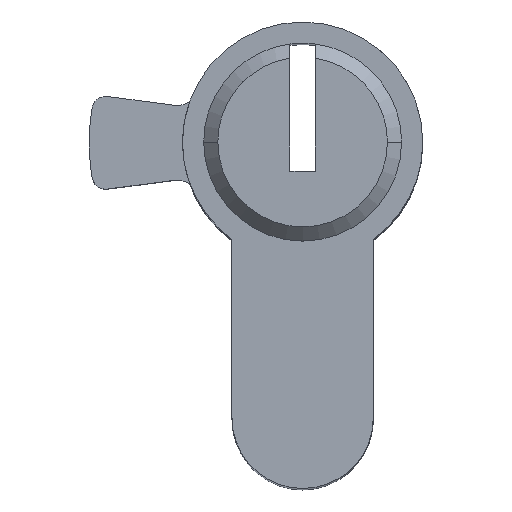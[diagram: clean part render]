
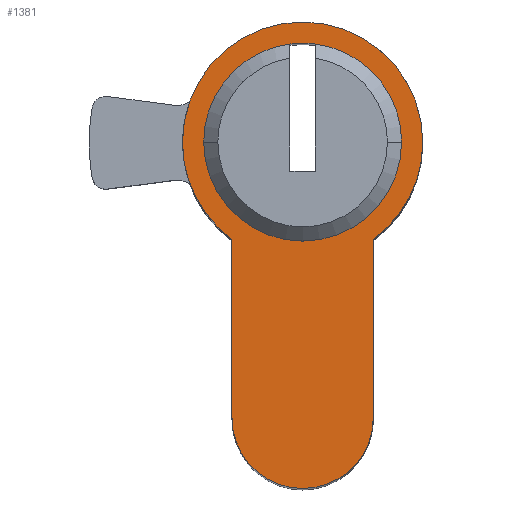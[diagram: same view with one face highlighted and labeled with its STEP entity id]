
A CAD part, top view. The second image highlights one B-rep face of the part: STEP entity #1381.
In plain terms, the highlighted planar face has unit normal (0, 0, 1).
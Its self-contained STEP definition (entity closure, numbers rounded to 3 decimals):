
#8 = AXIS2_PLACEMENT_3D ( 'NONE', #556, #1094, #1120 ) ;
#38 = DIRECTION ( 'NONE',  ( 0., -1., 0. ) ) ;
#60 = DIRECTION ( 'NONE',  ( 1., 0., 0. ) ) ;
#61 = AXIS2_PLACEMENT_3D ( 'NONE', #1426, #863, #601 ) ;
#75 = EDGE_CURVE ( 'NONE', #743, #340, #435, .T. ) ;
#99 = ORIENTED_EDGE ( 'NONE', *, *, #816, .T. ) ;
#116 = VERTEX_POINT ( 'NONE', #1023 ) ;
#150 = DIRECTION ( 'NONE',  ( 0., 0., 1. ) ) ;
#189 = DIRECTION ( 'NONE',  ( 0., 0., 1. ) ) ;
#196 = FACE_OUTER_BOUND ( 'NONE', #623, .T. ) ;
#197 = ORIENTED_EDGE ( 'NONE', *, *, #304, .F. ) ;
#200 = CARTESIAN_POINT ( 'NONE',  ( -5., -19.5, 30. ) ) ;
#227 = ORIENTED_EDGE ( 'NONE', *, *, #360, .F. ) ;
#238 = EDGE_CURVE ( 'NONE', #804, #1518, #964, .T. ) ;
#243 = CARTESIAN_POINT ( 'NONE',  ( 8.5, 0., 30. ) ) ;
#286 = CARTESIAN_POINT ( 'NONE',  ( 0., 0., 30. ) ) ;
#304 = EDGE_CURVE ( 'NONE', #340, #1180, #727, .T. ) ;
#317 = CARTESIAN_POINT ( 'NONE',  ( 0., 0., 30. ) ) ;
#331 = ORIENTED_EDGE ( 'NONE', *, *, #238, .T. ) ;
#340 = VERTEX_POINT ( 'NONE', #824 ) ;
#355 = DIRECTION ( 'NONE',  ( 0., 1., 0. ) ) ;
#360 = EDGE_CURVE ( 'NONE', #1087, #743, #1106, .T. ) ;
#361 = CARTESIAN_POINT ( 'NONE',  ( 0., 0., 30. ) ) ;
#367 = VERTEX_POINT ( 'NONE', #1660 ) ;
#374 = DIRECTION ( 'NONE',  ( 0., 0., 1. ) ) ;
#388 = ORIENTED_EDGE ( 'NONE', *, *, #1597, .F. ) ;
#400 = CARTESIAN_POINT ( 'NONE',  ( 7., 0., 30. ) ) ;
#405 = ORIENTED_EDGE ( 'NONE', *, *, #75, .F. ) ;
#431 = DIRECTION ( 'NONE',  ( 1., 0., 0. ) ) ;
#435 = CIRCLE ( 'NONE', #61, 7. ) ;
#453 = CARTESIAN_POINT ( 'NONE',  ( 0., 0., 30. ) ) ;
#479 = PLANE ( 'NONE',  #1315 ) ;
#536 = ORIENTED_EDGE ( 'NONE', *, *, #592, .T. ) ;
#542 = DIRECTION ( 'NONE',  ( 0., 0., 1. ) ) ;
#549 = DIRECTION ( 'NONE',  ( 0., 0., 1. ) ) ;
#556 = CARTESIAN_POINT ( 'NONE',  ( 0., 0., 30. ) ) ;
#592 = EDGE_CURVE ( 'NONE', #116, #804, #1452, .T. ) ;
#601 = DIRECTION ( 'NONE',  ( 1., 0., 0. ) ) ;
#623 = EDGE_LOOP ( 'NONE', ( #331, #1159, #99, #1625, #1278, #536 ) ) ;
#645 = VERTEX_POINT ( 'NONE', #200 ) ;
#648 = CIRCLE ( 'NONE', #974, 8.5 ) ;
#666 = VERTEX_POINT ( 'NONE', #1659 ) ;
#672 = AXIS2_PLACEMENT_3D ( 'NONE', #453, #189, #1010 ) ;
#719 = EDGE_LOOP ( 'NONE', ( #227, #388, #197, #405 ) ) ;
#727 = CIRCLE ( 'NONE', #1225, 7. ) ;
#743 = VERTEX_POINT ( 'NONE', #1354 ) ;
#804 = VERTEX_POINT ( 'NONE', #1682 ) ;
#805 = EDGE_CURVE ( 'NONE', #367, #645, #1413, .T. ) ;
#816 = EDGE_CURVE ( 'NONE', #666, #367, #1451, .T. ) ;
#824 = CARTESIAN_POINT ( 'NONE',  ( -7., 0., 30. ) ) ;
#835 = CARTESIAN_POINT ( 'NONE',  ( 0., 0., 30. ) ) ;
#856 = CARTESIAN_POINT ( 'NONE',  ( -5., -6.874, 30. ) ) ;
#863 = DIRECTION ( 'NONE',  ( 0., 0., 1. ) ) ;
#930 = CARTESIAN_POINT ( 'NONE',  ( 5., -19.5, 30. ) ) ;
#931 = DIRECTION ( 'NONE',  ( 1., 0., 0. ) ) ;
#938 = CARTESIAN_POINT ( 'NONE',  ( 0.9, 6.942, 30. ) ) ;
#943 = AXIS2_PLACEMENT_3D ( 'NONE', #317, #1433, #431 ) ;
#964 = CIRCLE ( 'NONE', #1132, 8.5 ) ;
#968 = VECTOR ( 'NONE', #38, 1000. ) ;
#973 = DIRECTION ( 'NONE',  ( 1., 0., 0. ) ) ;
#974 = AXIS2_PLACEMENT_3D ( 'NONE', #835, #549, #1299 ) ;
#1010 = DIRECTION ( 'NONE',  ( 1., 0., 0. ) ) ;
#1023 = CARTESIAN_POINT ( 'NONE',  ( 5., -19.5, 30. ) ) ;
#1064 = CARTESIAN_POINT ( 'NONE',  ( 0., 0., 30. ) ) ;
#1076 = DIRECTION ( 'NONE',  ( 1., 0., 0. ) ) ;
#1087 = VERTEX_POINT ( 'NONE', #938 ) ;
#1094 = DIRECTION ( 'NONE',  ( 0., 0., 1. ) ) ;
#1106 = CIRCLE ( 'NONE', #8, 7. ) ;
#1113 = AXIS2_PLACEMENT_3D ( 'NONE', #1342, #542, #1076 ) ;
#1120 = DIRECTION ( 'NONE',  ( 1., 0., 0. ) ) ;
#1132 = AXIS2_PLACEMENT_3D ( 'NONE', #1064, #374, #931 ) ;
#1158 = FACE_BOUND ( 'NONE', #719, .T. ) ;
#1159 = ORIENTED_EDGE ( 'NONE', *, *, #1633, .T. ) ;
#1180 = VERTEX_POINT ( 'NONE', #400 ) ;
#1225 = AXIS2_PLACEMENT_3D ( 'NONE', #286, #150, #973 ) ;
#1278 = ORIENTED_EDGE ( 'NONE', *, *, #1544, .T. ) ;
#1299 = DIRECTION ( 'NONE',  ( 1., 0., 0. ) ) ;
#1315 = AXIS2_PLACEMENT_3D ( 'NONE', #361, #1436, #60 ) ;
#1342 = CARTESIAN_POINT ( 'NONE',  ( 0., -19.5, 30. ) ) ;
#1354 = CARTESIAN_POINT ( 'NONE',  ( -0.9, 6.942, 30. ) ) ;
#1366 = VECTOR ( 'NONE', #355, 1000. ) ;
#1381 = ADVANCED_FACE ( 'NONE', ( #1158, #196 ), #479, .T. ) ;
#1413 = LINE ( 'NONE', #856, #968 ) ;
#1426 = CARTESIAN_POINT ( 'NONE',  ( 0., 0., 30. ) ) ;
#1433 = DIRECTION ( 'NONE',  ( 0., 0., 1. ) ) ;
#1436 = DIRECTION ( 'NONE',  ( 0., 0., 1. ) ) ;
#1451 = CIRCLE ( 'NONE', #672, 8.5 ) ;
#1452 = LINE ( 'NONE', #930, #1366 ) ;
#1461 = CIRCLE ( 'NONE', #1113, 5. ) ;
#1518 = VERTEX_POINT ( 'NONE', #243 ) ;
#1544 = EDGE_CURVE ( 'NONE', #645, #116, #1461, .T. ) ;
#1597 = EDGE_CURVE ( 'NONE', #1180, #1087, #1741, .T. ) ;
#1625 = ORIENTED_EDGE ( 'NONE', *, *, #805, .T. ) ;
#1633 = EDGE_CURVE ( 'NONE', #1518, #666, #648, .T. ) ;
#1659 = CARTESIAN_POINT ( 'NONE',  ( -8.5, 0., 30. ) ) ;
#1660 = CARTESIAN_POINT ( 'NONE',  ( -5., -6.874, 30. ) ) ;
#1682 = CARTESIAN_POINT ( 'NONE',  ( 5., -6.874, 30. ) ) ;
#1741 = CIRCLE ( 'NONE', #943, 7. ) ;
